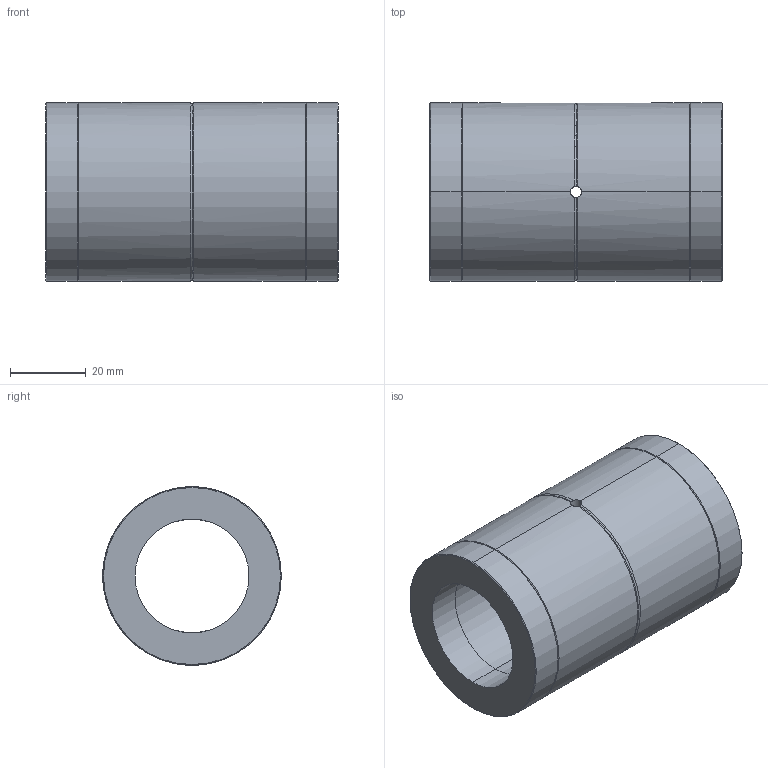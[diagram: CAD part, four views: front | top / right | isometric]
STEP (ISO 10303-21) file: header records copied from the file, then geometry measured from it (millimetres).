
FILE_DESCRIPTION (( 'STEP AP203' ), '1' );
FILE_NAME ('KLT030T4.STEP', '2023-08-11T07:20:58', ( 'Microsoft' ), ( 'Microsoft' ), 'SwSTEP 2.0', 'SolidWorks 2022', '' );
FILE_SCHEMA (( 'CONFIG_CONTROL_DESIGN' ));
Length unit declared in the file: millimetre
Products named in the file (4): KLT030T4; 零件6^KLT030T4; 零件7^KLT030T4; 零件4^KLT030T4
Assembly tree (3 placements, depth 2):
  KLT030T4
    零件4^KLT030T4
    零件6^KLT030T4
    零件7^KLT030T4
Bounding box: 77 x 47 x 47 mm (x, y, z)
Volume: 78598.3 mm3; surface area: 25050.7 mm2
Topology: 3 solids, 3 shells, 47 faces, 115 edges, 70 vertices
Faces by surface type: cylinder 20, cone 12, plane 9, torus 6
Entity records: 2042 total; most frequent: CARTESIAN_POINT 522, DIRECTION 242, ORIENTED_EDGE 230, EDGE_CURVE 115, AXIS2_PLACEMENT_3D 100, VERTEX_POINT 70, EDGE_LOOP 53, ADVANCED_FACE 47
